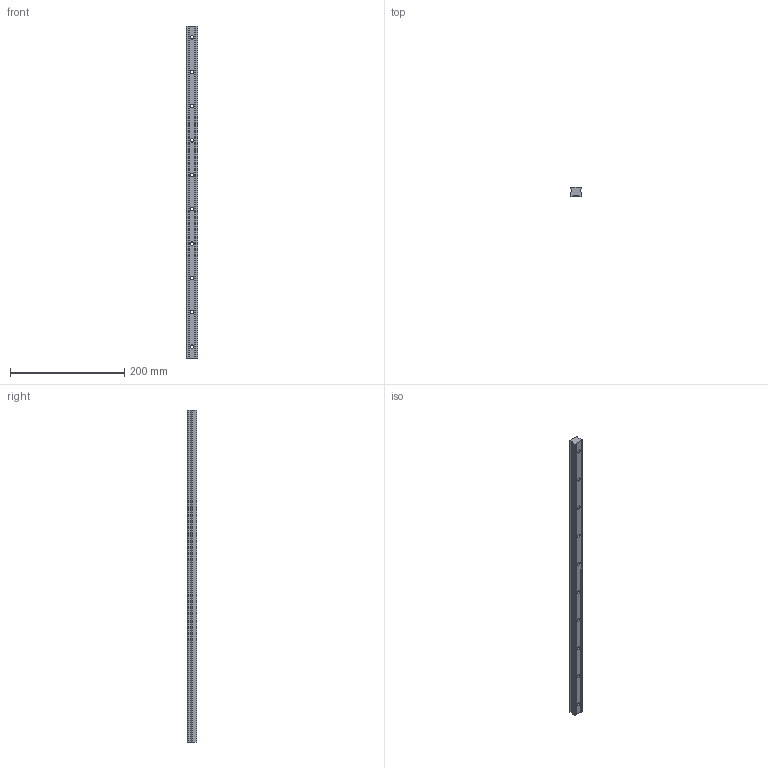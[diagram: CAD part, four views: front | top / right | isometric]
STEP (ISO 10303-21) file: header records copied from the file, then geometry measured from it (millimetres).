
FILE_DESCRIPTION (( 'STEP AP203' ), '1' );
FILE_NAME ('L1016.BL20-0580.step', '2019-06-12T11:46:47', ( '' ), ( '' ), 'SwSTEP 2.0', 'SolidWorks 2017', '' );
FILE_SCHEMA (( 'CONFIG_CONTROL_DESIGN' ));
Length unit declared in the file: millimetre
Products named in the file (1): L1016.BL20-0580
Bounding box: 20 x 16.3 x 580 mm (x, y, z)
Volume: 161011.2 mm3; surface area: 47207.6 mm2
Topology: 1 solids, 1 shells, 76 faces, 192 edges, 128 vertices
Faces by surface type: cylinder 44, plane 32
Entity records: 2441 total; most frequent: DIRECTION 434, CARTESIAN_POINT 397, ORIENTED_EDGE 384, EDGE_CURVE 192, AXIS2_PLACEMENT_3D 165, VERTEX_POINT 128, EDGE_LOOP 106, VECTOR 104
